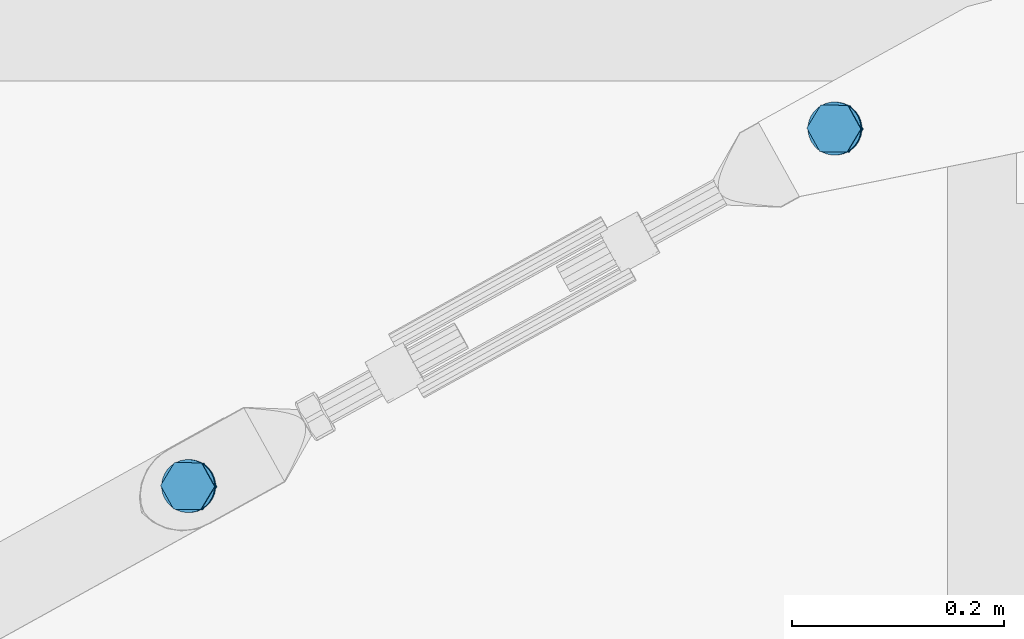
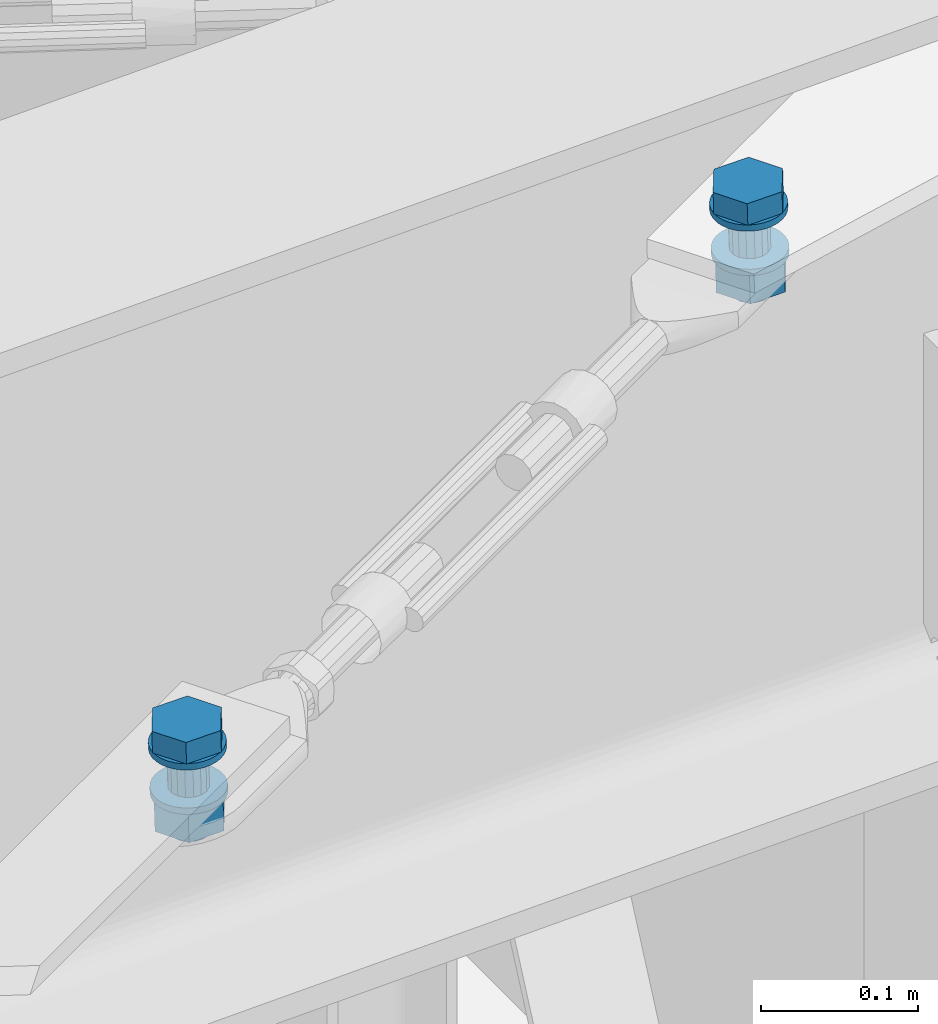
# One storey, part 145 of 476: 2 mechanical fasteners.
"""IFC2X3 building model written with IfcOpenShell, lengths in millimetres."""

from ifc_helpers import new_model, entity, si_unit, converted_unit, origin_with_axes, place, context, project, spatial, faceted_brep, element, save


model = new_model("IFC2X3")

# Units and contexts
model_context = context("Model", 3, precision=1e-09, world=origin_with_axes())
ifc_project = project(units=[si_unit("LENGTHUNIT", "METRE", prefix="MILLI"), si_unit("AREAUNIT", "SQUARE_METRE"), si_unit("VOLUMEUNIT", "CUBIC_METRE"), converted_unit("PLANEANGLEUNIT", "DEGREE", entity("IfcPlaneAngleMeasure", 0.01745329), si_unit("PLANEANGLEUNIT", "RADIAN"), dimensions=[0, 0, 0, 0, 0, 0, 0])], contexts=[model_context])

# Site, building, storey
site_placement = place(None, origin_with_axes())
site = spatial("IfcSite", under=ifc_project, at=site_placement, Name="mKR Teilneubau & Sanierung BA1 - Ostfildern", CompositionType="ELEMENT")
building_placement = place(site_placement, origin_with_axes())
building = spatial("IfcBuilding", under=site, at=building_placement, Name="Struktur 1", CompositionType="ELEMENT")
storey_placement = place(building_placement, origin_with_axes())
storey = spatial("IfcBuildingStorey", under=building, at=storey_placement, Name="Default Storey", CompositionType="ELEMENT", Elevation=0.0)

# Mechanical fasteners
mechanical_fastener_1_placement = place(None, origin_with_axes())
element("IfcMechanicalFastener", 1, at=mechanical_fastener_1_placement, inside=storey, ObjectType="-", NominalDiameter=27.0, NominalLength=70.0, context=model_context, shape_type="Brep", body=[
    faceted_brep([(21098.088223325, -10244.753447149, 5618.092674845), (21097.938013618, -10244.753447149, 5623.09041804), (21099.878317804, -10249.253471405, 5623.148734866), (21100.028527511, -10249.253471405, 5618.150991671), (21100.903824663, -10254.045734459, 5623.179556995), (21101.054034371, -10254.045734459, 5618.1818138), (21100.975124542, -10258.946072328, 5623.181699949), (21101.125334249, -10258.946072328, 5618.183956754), (21100.089477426, -10263.766167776, 5623.155081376), (21100.239687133, -10263.766167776, 5618.157338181), (21098.280918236, -10268.320787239, 5623.100724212), (21098.431127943, -10268.320787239, 5618.102981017), (21095.618948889, -10272.434899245, 5623.020717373), (21095.769158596, -10272.434899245, 5618.022974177), (21092.205867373, -10275.950400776, 5622.918135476), (21092.35607708, -10275.950400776, 5617.920392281), (21088.172836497, -10278.732193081, 5622.796920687), (21088.323046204, -10278.732193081, 5617.799177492), (21083.674843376, -10280.67337344, 5622.661731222), (21083.825053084, -10280.67337344, 5617.663988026), (21078.884743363, -10281.699343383, 5622.517762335), (21079.034953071, -10281.699343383, 5617.52001914), (21073.986617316, -10281.770675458, 5622.370546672), (21074.136827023, -10281.770675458, 5617.372803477), (21069.16869747, -10280.884628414, 5622.225741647), (21069.318907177, -10280.884628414, 5617.227998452), (21064.616133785, -10279.075252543, 5622.088912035), (21064.766343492, -10279.075252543, 5617.09116884), (21060.503878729, -10276.412081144, 5621.965316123), (21060.654088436, -10276.412081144, 5616.967572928), (21056.989963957, -10272.997458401, 5621.859703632), (21057.140173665, -10272.997458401, 5616.861960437), (21054.209427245, -10268.96260635, 5621.77613319), (21054.359636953, -10268.96260635, 5616.778389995), (21052.269123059, -10264.462582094, 5621.717816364), (21052.419332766, -10264.462582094, 5616.720073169), (21051.243616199, -10259.67031904, 5621.686994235), (21051.393825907, -10259.67031904, 5616.68925104), (21051.172316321, -10254.769981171, 5621.684851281), (21051.322526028, -10254.769981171, 5616.687108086), (21052.057963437, -10249.949885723, 5621.711469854), (21052.208173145, -10249.949885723, 5616.713726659), (21053.866522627, -10245.39526626, 5621.765827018), (21054.016732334, -10245.39526626, 5616.768083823), (21056.528491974, -10241.281154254, 5621.845833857), (21056.678701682, -10241.281154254, 5616.848090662), (21059.94157349, -10237.765652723, 5621.948415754), (21060.091783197, -10237.765652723, 5616.950672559), (21063.974604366, -10234.983860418, 5622.069630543), (21064.124814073, -10234.983860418, 5617.071887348), (21068.472597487, -10233.042680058, 5622.204820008), (21068.622807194, -10233.042680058, 5617.207076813), (21073.2626975, -10232.016710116, 5622.348788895), (21073.412907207, -10232.016710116, 5617.351045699), (21078.160823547, -10231.945378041, 5622.496004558), (21078.311033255, -10231.945378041, 5617.498261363), (21082.978743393, -10232.831425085, 5622.640809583), (21083.1289531, -10232.831425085, 5617.643066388), (21087.531307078, -10234.640800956, 5622.777639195), (21087.681516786, -10234.640800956, 5617.779896), (21091.643562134, -10237.303972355, 5622.901235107), (21091.793771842, -10237.303972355, 5617.903491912), (21095.157476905, -10240.718595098, 5623.006847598), (21095.307686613, -10240.718595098, 5618.009104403)], [[[0, 1, 2, 3]], [[3, 2, 4, 5]], [[5, 4, 6, 7]], [[7, 6, 8, 9]], [[9, 8, 10, 11]], [[11, 10, 12, 13]], [[13, 12, 14, 15]], [[15, 14, 16, 17]], [[17, 16, 18, 19]], [[19, 18, 20, 21]], [[21, 20, 22, 23]], [[23, 22, 24, 25]], [[25, 24, 26, 27]], [[27, 26, 28, 29]], [[29, 28, 30, 31]], [[31, 30, 32, 33]], [[33, 32, 34, 35]], [[35, 34, 36, 37]], [[37, 36, 38, 39]], [[39, 38, 40, 41]], [[41, 40, 42, 43]], [[43, 42, 44, 45]], [[45, 44, 46, 47]], [[47, 46, 48, 49]], [[49, 48, 50, 51]], [[51, 50, 52, 53]], [[53, 52, 54, 55]], [[55, 54, 56, 57]], [[57, 56, 58, 59]], [[59, 58, 60, 61]], [[61, 60, 62, 63]], [[63, 62, 1, 0]], [[2, 1, 62, 60, 58, 56, 54, 52, 50, 48, 46, 44, 42, 40, 38, 36, 34, 32, 30, 28, 26, 24, 22, 20, 18, 16, 14, 12, 10, 8, 6, 4]], [[63, 0, 3, 5, 7, 9, 11, 13, 15, 17, 19, 21, 23, 25, 27, 29, 31, 33, 35, 37, 39, 41, 43, 45, 47, 49, 51, 53, 55, 57, 59, 61]]]),
    faceted_brep([(21062.458479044, -10278.642122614, 5639.031739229), (21062.969192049, -10278.642122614, 5622.039412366), (21088.37852147, -10279.104053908, 5622.803102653), (21087.867808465, -10279.104053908, 5639.795429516), (21101.483049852, -10257.319958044, 5623.196965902), (21100.972336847, -10257.319958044, 5640.189292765), (21089.178248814, -10235.073930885, 5622.827138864), (21088.667535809, -10235.073930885, 5639.819465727), (21063.768919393, -10234.61199959, 5622.063448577), (21063.258206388, -10234.61199959, 5639.05577544), (21050.66439101, -10256.396095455, 5621.669585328), (21050.153678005, -10256.396095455, 5638.661912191)], [[[0, 1, 2, 3]], [[3, 2, 4, 5]], [[5, 4, 6, 7]], [[7, 6, 8, 9]], [[9, 8, 10, 11]], [[11, 10, 1, 0]], [[3, 5, 7, 9, 11, 0]], [[2, 1, 10, 8, 6, 4]]]),
    faceted_brep([(21088.931906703, -10250.321553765, 5587.803930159), (21088.030657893, -10250.321553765, 5617.790075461), (21089.632195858, -10255.339388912, 5617.838210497), (21090.533444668, -10255.339388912, 5587.852065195), (21089.192448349, -10260.588422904, 5617.824993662), (21090.09369716, -10260.588422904, 5587.83884836), (21086.778362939, -10265.269537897, 5617.752437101), (21087.67961175, -10265.269537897, 5587.766291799), (21082.757462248, -10268.670076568, 5617.63158689), (21083.658711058, -10268.670076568, 5587.645441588), (21077.741891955, -10270.272337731, 5617.480841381), (21078.643140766, -10270.272337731, 5587.494696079), (21072.495227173, -10269.832391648, 5617.323150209), (21073.396475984, -10269.832391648, 5587.337004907), (21067.816225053, -10267.417216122, 5617.182520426), (21068.717473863, -10267.417216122, 5587.196375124), (21064.417221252, -10263.394499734, 5617.080361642), (21065.318470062, -10263.394499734, 5587.09421634), (21062.815683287, -10258.376664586, 5617.032226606), (21063.716932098, -10258.376664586, 5587.046081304), (21063.255430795, -10253.127630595, 5617.045443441), (21064.156679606, -10253.127630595, 5587.059298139), (21065.669516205, -10248.446515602, 5617.118000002), (21066.570765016, -10248.446515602, 5587.1318547), (21069.690416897, -10245.04597693, 5617.238850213), (21070.591665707, -10245.04597693, 5587.252704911), (21074.705987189, -10243.443715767, 5617.389595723), (21075.607236, -10243.443715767, 5587.40345042), (21079.952651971, -10243.88366185, 5617.547286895), (21080.853900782, -10243.88366185, 5587.561141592), (21084.631654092, -10246.298837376, 5617.687916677), (21085.532902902, -10246.298837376, 5587.701771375)], [[[0, 1, 2, 3]], [[3, 2, 4, 5]], [[5, 4, 6, 7]], [[7, 6, 8, 9]], [[9, 8, 10, 11]], [[11, 10, 12, 13]], [[13, 12, 14, 15]], [[15, 14, 16, 17]], [[17, 16, 18, 19]], [[19, 18, 20, 21]], [[21, 20, 22, 23]], [[23, 22, 24, 25]], [[25, 24, 26, 27]], [[27, 26, 28, 29]], [[29, 28, 30, 31]], [[31, 30, 1, 0]], [[2, 1, 30, 28, 26, 24, 22, 20, 18, 16, 14, 12, 10, 8, 6, 4]], [[31, 0, 3, 5, 7, 9, 11, 13, 15, 17, 19, 21, 23, 25, 27, 29]]]),
    faceted_brep([(21099.139691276, -10244.753447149, 5583.108472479), (21098.989481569, -10244.753447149, 5588.106215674), (21100.929785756, -10249.253471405, 5588.164532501), (21101.079995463, -10249.253471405, 5583.166789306), (21101.955292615, -10254.045734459, 5588.19535463), (21102.105502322, -10254.045734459, 5583.197611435), (21102.026592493, -10258.946072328, 5588.197497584), (21102.176802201, -10258.946072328, 5583.199754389), (21101.140945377, -10263.766167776, 5588.17087901), (21101.291155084, -10263.766167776, 5583.173135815), (21099.332386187, -10268.320787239, 5588.116521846), (21099.482595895, -10268.320787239, 5583.118778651), (21096.67041684, -10272.434899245, 5588.036515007), (21096.820626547, -10272.434899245, 5583.038771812), (21093.257335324, -10275.950400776, 5587.933933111), (21093.407545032, -10275.950400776, 5582.936189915), (21089.224304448, -10278.732193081, 5587.812718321), (21089.374514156, -10278.732193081, 5582.814975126), (21084.726311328, -10280.67337344, 5587.677528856), (21084.876521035, -10280.67337344, 5582.679785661), (21079.936211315, -10281.699343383, 5587.53355997), (21080.086421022, -10281.699343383, 5582.535816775), (21075.038085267, -10281.770675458, 5587.386344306), (21075.188294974, -10281.770675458, 5582.388601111), (21070.220165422, -10280.884628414, 5587.241539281), (21070.370375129, -10280.884628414, 5582.243796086), (21065.667601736, -10279.075252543, 5587.10470967), (21065.817811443, -10279.075252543, 5582.106966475), (21061.55534668, -10276.412081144, 5586.981113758), (21061.705556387, -10276.412081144, 5581.983370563), (21058.041431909, -10272.997458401, 5586.875501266), (21058.191641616, -10272.997458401, 5581.877758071), (21055.260895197, -10268.96260635, 5586.791930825), (21055.411104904, -10268.96260635, 5581.79418763), (21053.32059101, -10264.462582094, 5586.733613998), (21053.470800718, -10264.462582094, 5581.735870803), (21052.295084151, -10259.67031904, 5586.702791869), (21052.445293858, -10259.67031904, 5581.705048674), (21052.223784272, -10254.769981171, 5586.700648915), (21052.37399398, -10254.769981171, 5581.70290572), (21053.109431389, -10249.949885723, 5586.727267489), (21053.259641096, -10249.949885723, 5581.729524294), (21054.917990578, -10245.39526626, 5586.781624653), (21055.068200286, -10245.39526626, 5581.783881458), (21057.579959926, -10241.281154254, 5586.861631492), (21057.730169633, -10241.281154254, 5581.863888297), (21060.993041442, -10237.765652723, 5586.964213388), (21061.143251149, -10237.765652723, 5581.966470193), (21065.026072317, -10234.983860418, 5587.085428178), (21065.176282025, -10234.983860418, 5582.087684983), (21069.524065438, -10233.042680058, 5587.220617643), (21069.674275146, -10233.042680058, 5582.222874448), (21074.314165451, -10232.016710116, 5587.364586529), (21074.464375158, -10232.016710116, 5582.366843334), (21079.212291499, -10231.945378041, 5587.511802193), (21079.362501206, -10231.945378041, 5582.514058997), (21084.030211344, -10232.831425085, 5587.656607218), (21084.180421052, -10232.831425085, 5582.658864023), (21088.58277503, -10234.640800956, 5587.793436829), (21088.732984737, -10234.640800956, 5582.795693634), (21092.695030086, -10237.303972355, 5587.917032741), (21092.845239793, -10237.303972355, 5582.919289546), (21096.208944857, -10240.718595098, 5588.022645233), (21096.359154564, -10240.718595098, 5583.024902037)], [[[0, 1, 2, 3]], [[3, 2, 4, 5]], [[5, 4, 6, 7]], [[7, 6, 8, 9]], [[9, 8, 10, 11]], [[11, 10, 12, 13]], [[13, 12, 14, 15]], [[15, 14, 16, 17]], [[17, 16, 18, 19]], [[19, 18, 20, 21]], [[21, 20, 22, 23]], [[23, 22, 24, 25]], [[25, 24, 26, 27]], [[27, 26, 28, 29]], [[29, 28, 30, 31]], [[31, 30, 32, 33]], [[33, 32, 34, 35]], [[35, 34, 36, 37]], [[37, 36, 38, 39]], [[39, 38, 40, 41]], [[41, 40, 42, 43]], [[43, 42, 44, 45]], [[45, 44, 46, 47]], [[47, 46, 48, 49]], [[49, 48, 50, 51]], [[51, 50, 52, 53]], [[53, 52, 54, 55]], [[55, 54, 56, 57]], [[57, 56, 58, 59]], [[59, 58, 60, 61]], [[61, 60, 62, 63]], [[63, 62, 1, 0]], [[2, 1, 62, 60, 58, 56, 54, 52, 50, 48, 46, 44, 42, 40, 38, 36, 34, 32, 30, 28, 26, 24, 22, 20, 18, 16, 14, 12, 10, 8, 6, 4]], [[63, 0, 3, 5, 7, 9, 11, 13, 15, 17, 19, 21, 23, 25, 27, 29, 31, 33, 35, 37, 39, 41, 43, 45, 47, 49, 51, 53, 55, 57, 59, 61]]]),
    faceted_brep([(21064.132213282, -10278.706382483, 5582.056304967), (21064.793135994, -10278.706382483, 5560.066234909), (21090.277419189, -10279.169676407, 5560.832177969), (21089.616496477, -10279.169676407, 5582.822248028), (21103.420603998, -10257.321320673, 5561.227203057), (21102.759681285, -10257.321320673, 5583.217273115), (21091.079505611, -10235.009671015, 5560.856285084), (21090.418582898, -10235.009671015, 5582.846355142), (21065.595222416, -10234.546377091, 5560.090342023), (21064.934299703, -10234.546377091, 5582.080412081), (21052.452037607, -10256.394732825, 5559.695316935), (21051.791114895, -10256.394732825, 5581.685386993)], [[[0, 1, 2, 3]], [[3, 2, 4, 5]], [[5, 4, 6, 7]], [[7, 6, 8, 9]], [[9, 8, 10, 11]], [[11, 10, 1, 0]], [[3, 5, 7, 9, 11, 0]], [[2, 1, 10, 8, 6, 4]]]),
    faceted_brep([(21089.983374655, -10250.321553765, 5552.819727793), (21089.74302969, -10250.321553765, 5560.816430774), (21091.344567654, -10255.339388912, 5560.86456581), (21091.58491262, -10255.339388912, 5552.867862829), (21090.904820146, -10260.588422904, 5560.851348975), (21091.145165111, -10260.588422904, 5552.854645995), (21088.490734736, -10265.269537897, 5560.778792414), (21088.731079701, -10265.269537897, 5552.782089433), (21084.469834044, -10268.670076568, 5560.657942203), (21084.71017901, -10268.670076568, 5552.661239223), (21079.454263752, -10270.272337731, 5560.507196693), (21079.694608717, -10270.272337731, 5552.510493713), (21074.20759897, -10269.832391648, 5560.349505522), (21074.447943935, -10269.832391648, 5552.352802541), (21069.52859685, -10267.417216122, 5560.208875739), (21069.768941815, -10267.417216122, 5552.212172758), (21066.129593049, -10263.394499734, 5560.106716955), (21066.369938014, -10263.394499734, 5552.110013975), (21064.528055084, -10258.376664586, 5560.058581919), (21064.768400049, -10258.376664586, 5552.061878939), (21064.967802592, -10253.127630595, 5560.071798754), (21065.208147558, -10253.127630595, 5552.075095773), (21067.381888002, -10248.446515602, 5560.144355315), (21067.622232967, -10248.446515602, 5552.147652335), (21071.402788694, -10245.04597693, 5560.265205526), (21071.643133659, -10245.04597693, 5552.268502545), (21076.418358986, -10243.443715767, 5560.415951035), (21076.658703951, -10243.443715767, 5552.419248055), (21081.665023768, -10243.88366185, 5560.573642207), (21081.905368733, -10243.88366185, 5552.576939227), (21086.344025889, -10246.298837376, 5560.71427199), (21086.584370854, -10246.298837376, 5552.71756901)], [[[0, 1, 2, 3]], [[3, 2, 4, 5]], [[5, 4, 6, 7]], [[7, 6, 8, 9]], [[9, 8, 10, 11]], [[11, 10, 12, 13]], [[13, 12, 14, 15]], [[15, 14, 16, 17]], [[17, 16, 18, 19]], [[19, 18, 20, 21]], [[21, 20, 22, 23]], [[23, 22, 24, 25]], [[25, 24, 26, 27]], [[27, 26, 28, 29]], [[29, 28, 30, 31]], [[31, 30, 1, 0]], [[2, 1, 30, 28, 26, 24, 22, 20, 18, 16, 14, 12, 10, 8, 6, 4]], [[31, 0, 3, 5, 7, 9, 11, 13, 15, 17, 19, 21, 23, 25, 27, 29]]]),
])
mechanical_fastener_2_placement = place(None, origin_with_axes())
element("IfcMechanicalFastener", 2, at=mechanical_fastener_2_placement, inside=storey, ObjectType="-", NominalDiameter=27.0, NominalLength=70.0, context=model_context, shape_type="Brep", body=[
    faceted_brep([(21706.37044418, -9908.246134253, 5621.226893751), (21706.220234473, -9908.246134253, 5626.224636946), (21708.160538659, -9912.746158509, 5626.282953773), (21708.310748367, -9912.746158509, 5621.285210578), (21709.186045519, -9917.538421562, 5626.313775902), (21709.336255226, -9917.538421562, 5621.316032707), (21709.257345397, -9922.438759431, 5626.315918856), (21709.407555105, -9922.438759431, 5621.318175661), (21708.371698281, -9927.25885488, 5626.289300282), (21708.521907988, -9927.25885488, 5621.291557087), (21706.563139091, -9931.813474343, 5626.234943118), (21706.713348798, -9931.813474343, 5621.237199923), (21703.901169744, -9935.927586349, 5626.154936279), (21704.051379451, -9935.927586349, 5621.157193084), (21700.488088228, -9939.44308788, 5626.052354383), (21700.638297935, -9939.44308788, 5621.054611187), (21696.455057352, -9942.224880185, 5625.931139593), (21696.60526706, -9942.224880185, 5620.933396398), (21691.957064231, -9944.166060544, 5625.795950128), (21692.107273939, -9944.166060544, 5620.798206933), (21687.166964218, -9945.192030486, 5625.651981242), (21687.317173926, -9945.192030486, 5620.654238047), (21682.268838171, -9945.263362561, 5625.504765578), (21682.419047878, -9945.263362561, 5620.507022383), (21677.450918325, -9944.377315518, 5625.359960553), (21677.601128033, -9944.377315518, 5620.362217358), (21672.89835464, -9942.567939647, 5625.223130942), (21673.048564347, -9942.567939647, 5620.225387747), (21668.786099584, -9939.904768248, 5625.09953503), (21668.936309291, -9939.904768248, 5620.101791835), (21665.272184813, -9936.490145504, 5624.993922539), (21665.42239452, -9936.490145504, 5619.996179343), (21662.491648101, -9932.455293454, 5624.910352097), (21662.641857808, -9932.455293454, 5619.912608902), (21660.551343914, -9927.955269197, 5624.85203527), (21660.701553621, -9927.955269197, 5619.854292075), (21659.525837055, -9923.163006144, 5624.821213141), (21659.676046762, -9923.163006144, 5619.823469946), (21659.454537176, -9918.262668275, 5624.819070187), (21659.604746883, -9918.262668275, 5619.821326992), (21660.340184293, -9913.442572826, 5624.845688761), (21660.490394, -9913.442572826, 5619.847945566), (21662.148743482, -9908.887953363, 5624.900045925), (21662.298953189, -9908.887953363, 5619.90230273), (21664.810712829, -9904.773841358, 5624.980052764), (21664.960922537, -9904.773841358, 5619.982309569), (21668.223794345, -9901.258339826, 5625.082634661), (21668.374004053, -9901.258339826, 5620.084891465), (21672.256825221, -9898.476547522, 5625.20384945), (21672.407034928, -9898.476547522, 5620.206106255), (21676.754818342, -9896.535367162, 5625.339038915), (21676.905028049, -9896.535367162, 5620.34129572), (21681.544918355, -9895.50939722, 5625.483007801), (21681.695128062, -9895.50939722, 5620.485264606), (21686.443044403, -9895.438065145, 5625.630223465), (21686.59325411, -9895.438065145, 5620.63248027), (21691.260964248, -9896.324112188, 5625.77502849), (21691.411173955, -9896.324112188, 5620.777285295), (21695.813527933, -9898.13348806, 5625.911858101), (21695.963737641, -9898.13348806, 5620.914114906), (21699.925782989, -9900.796659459, 5626.035454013), (21700.075992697, -9900.796659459, 5621.037710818), (21703.439697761, -9904.211282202, 5626.141066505), (21703.589907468, -9904.211282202, 5621.143323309)], [[[0, 1, 2, 3]], [[3, 2, 4, 5]], [[5, 4, 6, 7]], [[7, 6, 8, 9]], [[9, 8, 10, 11]], [[11, 10, 12, 13]], [[13, 12, 14, 15]], [[15, 14, 16, 17]], [[17, 16, 18, 19]], [[19, 18, 20, 21]], [[21, 20, 22, 23]], [[23, 22, 24, 25]], [[25, 24, 26, 27]], [[27, 26, 28, 29]], [[29, 28, 30, 31]], [[31, 30, 32, 33]], [[33, 32, 34, 35]], [[35, 34, 36, 37]], [[37, 36, 38, 39]], [[39, 38, 40, 41]], [[41, 40, 42, 43]], [[43, 42, 44, 45]], [[45, 44, 46, 47]], [[47, 46, 48, 49]], [[49, 48, 50, 51]], [[51, 50, 52, 53]], [[53, 52, 54, 55]], [[55, 54, 56, 57]], [[57, 56, 58, 59]], [[59, 58, 60, 61]], [[61, 60, 62, 63]], [[63, 62, 1, 0]], [[2, 1, 62, 60, 58, 56, 54, 52, 50, 48, 46, 44, 42, 40, 38, 36, 34, 32, 30, 28, 26, 24, 22, 20, 18, 16, 14, 12, 10, 8, 6, 4]], [[63, 0, 3, 5, 7, 9, 11, 13, 15, 17, 19, 21, 23, 25, 27, 29, 31, 33, 35, 37, 39, 41, 43, 45, 47, 49, 51, 53, 55, 57, 59, 61]]]),
    faceted_brep([(21670.740699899, -9942.134809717, 5642.165958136), (21671.251412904, -9942.134809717, 5625.173631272), (21696.660742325, -9942.596741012, 5625.93732156), (21696.15002932, -9942.596741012, 5642.929648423), (21709.765270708, -9920.812645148, 5626.331184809), (21709.254557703, -9920.812645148, 5643.323511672), (21697.460469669, -9898.566617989, 5625.961357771), (21696.949756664, -9898.566617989, 5642.953684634), (21672.051140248, -9898.104686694, 5625.197667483), (21671.540427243, -9898.104686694, 5642.189994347), (21658.946611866, -9919.888782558, 5624.803804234), (21658.435898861, -9919.888782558, 5641.796131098)], [[[0, 1, 2, 3]], [[3, 2, 4, 5]], [[5, 4, 6, 7]], [[7, 6, 8, 9]], [[9, 8, 10, 11]], [[11, 10, 1, 0]], [[3, 5, 7, 9, 11, 0]], [[2, 1, 10, 8, 6, 4]]]),
    faceted_brep([(21697.214160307, -9913.814240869, 5590.937059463), (21696.312869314, -9913.814240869, 5620.924608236), (21697.914407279, -9918.832076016, 5620.972743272), (21698.815698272, -9918.832076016, 5590.9851945), (21697.474659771, -9924.081110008, 5620.959526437), (21698.375950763, -9924.081110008, 5590.971977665), (21695.060574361, -9928.762225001, 5620.886969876), (21695.961865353, -9928.762225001, 5590.899421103), (21691.039673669, -9932.162763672, 5620.766119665), (21691.940964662, -9932.162763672, 5590.778570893), (21686.024103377, -9933.765024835, 5620.615374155), (21686.92539437, -9933.765024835, 5590.627825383), (21680.777438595, -9933.325078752, 5620.457682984), (21681.678729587, -9933.325078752, 5590.470134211), (21676.098436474, -9930.909903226, 5620.317053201), (21676.999727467, -9930.909903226, 5590.329504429), (21672.699432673, -9926.887186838, 5620.214894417), (21673.600723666, -9926.887186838, 5590.227345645), (21671.097894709, -9921.86935169, 5620.166759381), (21671.999185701, -9921.86935169, 5590.179210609), (21671.537642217, -9916.620317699, 5620.179976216), (21672.43893321, -9916.620317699, 5590.192427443), (21673.951727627, -9911.939202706, 5620.252532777), (21674.85301862, -9911.939202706, 5590.264984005), (21677.972628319, -9908.538664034, 5620.373382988), (21678.873919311, -9908.538664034, 5590.385834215), (21682.988198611, -9906.936402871, 5620.524128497), (21683.889489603, -9906.936402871, 5590.536579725), (21688.234863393, -9907.376348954, 5620.681819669), (21689.136154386, -9907.376348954, 5590.694270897), (21692.913865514, -9909.79152448, 5620.822449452), (21693.815156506, -9909.79152448, 5590.83490068)], [[[0, 1, 2, 3]], [[3, 2, 4, 5]], [[5, 4, 6, 7]], [[7, 6, 8, 9]], [[9, 8, 10, 11]], [[11, 10, 12, 13]], [[13, 12, 14, 15]], [[15, 14, 16, 17]], [[17, 16, 18, 19]], [[19, 18, 20, 21]], [[21, 20, 22, 23]], [[23, 22, 24, 25]], [[25, 24, 26, 27]], [[27, 26, 28, 29]], [[29, 28, 30, 31]], [[31, 30, 1, 0]], [[2, 1, 30, 28, 26, 24, 22, 20, 18, 16, 14, 12, 10, 8, 6, 4]], [[31, 0, 3, 5, 7, 9, 11, 13, 15, 17, 19, 21, 23, 25, 27, 29]]]),
    faceted_brep([(21707.42194488, -9908.246134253, 5586.241601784), (21707.271735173, -9908.246134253, 5591.239344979), (21709.212039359, -9912.746158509, 5591.297661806), (21709.362249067, -9912.746158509, 5586.29991861), (21710.237546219, -9917.538421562, 5591.328483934), (21710.387755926, -9917.538421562, 5586.330740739), (21710.308846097, -9922.438759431, 5591.330626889), (21710.459055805, -9922.438759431, 5586.332883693), (21709.423198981, -9927.25885488, 5591.304008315), (21709.573408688, -9927.25885488, 5586.30626512), (21707.614639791, -9931.813474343, 5591.249651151), (21707.764849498, -9931.813474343, 5586.251907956), (21704.952670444, -9935.927586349, 5591.169644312), (21705.102880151, -9935.927586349, 5586.171901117), (21701.539588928, -9939.44308788, 5591.067062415), (21701.689798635, -9939.44308788, 5586.06931922), (21697.506558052, -9942.224880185, 5590.945847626), (21697.65676776, -9942.224880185, 5585.948104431), (21693.008564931, -9944.166060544, 5590.810658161), (21693.158774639, -9944.166060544, 5585.812914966), (21688.218464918, -9945.192030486, 5590.666689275), (21688.368674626, -9945.192030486, 5585.66894608), (21683.320338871, -9945.263362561, 5590.519473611), (21683.470548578, -9945.263362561, 5585.521730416), (21678.502419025, -9944.377315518, 5590.374668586), (21678.652628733, -9944.377315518, 5585.376925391), (21673.94985534, -9942.567939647, 5590.237838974), (21674.100065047, -9942.567939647, 5585.240095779), (21669.837600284, -9939.904768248, 5590.114243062), (21669.987809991, -9939.904768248, 5585.116499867), (21666.323685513, -9936.490145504, 5590.008630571), (21666.47389522, -9936.490145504, 5585.010887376), (21663.5431488, -9932.455293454, 5589.92506013), (21663.693358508, -9932.455293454, 5584.927316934), (21661.602844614, -9927.955269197, 5589.866743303), (21661.753054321, -9927.955269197, 5584.869000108), (21660.577337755, -9923.163006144, 5589.835921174), (21660.727547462, -9923.163006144, 5584.838177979), (21660.506037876, -9918.262668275, 5589.83377822), (21660.656247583, -9918.262668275, 5584.836035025), (21661.391684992, -9913.442572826, 5589.860396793), (21661.5418947, -9913.442572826, 5584.862653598), (21663.200244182, -9908.887953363, 5589.914753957), (21663.350453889, -9908.887953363, 5584.917010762), (21665.862213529, -9904.773841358, 5589.994760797), (21666.012423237, -9904.773841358, 5584.997017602), (21669.275295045, -9901.258339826, 5590.097342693), (21669.425504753, -9901.258339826, 5585.099599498), (21673.308325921, -9898.476547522, 5590.218557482), (21673.458535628, -9898.476547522, 5585.220814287), (21677.806319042, -9896.535367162, 5590.353746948), (21677.956528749, -9896.535367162, 5585.356003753), (21682.596419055, -9895.50939722, 5590.497715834), (21682.746628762, -9895.50939722, 5585.499972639), (21687.494545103, -9895.438065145, 5590.644931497), (21687.64475481, -9895.438065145, 5585.647188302), (21692.312464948, -9896.324112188, 5590.789736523), (21692.462674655, -9896.324112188, 5585.791993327), (21696.865028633, -9898.13348806, 5590.926566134), (21697.015238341, -9898.13348806, 5585.928822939), (21700.977283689, -9900.796659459, 5591.050162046), (21701.127493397, -9900.796659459, 5586.052418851), (21704.491198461, -9904.211282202, 5591.155774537), (21704.641408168, -9904.211282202, 5586.158031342)], [[[0, 1, 2, 3]], [[3, 2, 4, 5]], [[5, 4, 6, 7]], [[7, 6, 8, 9]], [[9, 8, 10, 11]], [[11, 10, 12, 13]], [[13, 12, 14, 15]], [[15, 14, 16, 17]], [[17, 16, 18, 19]], [[19, 18, 20, 21]], [[21, 20, 22, 23]], [[23, 22, 24, 25]], [[25, 24, 26, 27]], [[27, 26, 28, 29]], [[29, 28, 30, 31]], [[31, 30, 32, 33]], [[33, 32, 34, 35]], [[35, 34, 36, 37]], [[37, 36, 38, 39]], [[39, 38, 40, 41]], [[41, 40, 42, 43]], [[43, 42, 44, 45]], [[45, 44, 46, 47]], [[47, 46, 48, 49]], [[49, 48, 50, 51]], [[51, 50, 52, 53]], [[53, 52, 54, 55]], [[55, 54, 56, 57]], [[57, 56, 58, 59]], [[59, 58, 60, 61]], [[61, 60, 62, 63]], [[63, 62, 1, 0]], [[2, 1, 62, 60, 58, 56, 54, 52, 50, 48, 46, 44, 42, 40, 38, 36, 34, 32, 30, 28, 26, 24, 22, 20, 18, 16, 14, 12, 10, 8, 6, 4]], [[63, 0, 3, 5, 7, 9, 11, 13, 15, 17, 19, 21, 23, 25, 27, 29, 31, 33, 35, 37, 39, 41, 43, 45, 47, 49, 51, 53, 55, 57, 59, 61]]]),
    faceted_brep([(21672.414466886, -9942.199069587, 5585.189434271), (21673.075389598, -9942.199069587, 5563.199364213), (21698.559672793, -9942.662363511, 5563.965307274), (21697.898750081, -9942.662363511, 5585.955377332), (21711.702857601, -9920.814007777, 5564.360332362), (21711.041934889, -9920.814007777, 5586.35040242), (21699.361759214, -9898.502358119, 5563.989414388), (21698.700836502, -9898.502358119, 5585.979484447), (21673.877476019, -9898.039064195, 5563.223471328), (21673.216553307, -9898.039064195, 5585.213541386), (21660.734291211, -9919.887419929, 5562.82844624), (21660.073368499, -9919.887419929, 5584.818516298)], [[[0, 1, 2, 3]], [[3, 2, 4, 5]], [[5, 4, 6, 7]], [[7, 6, 8, 9]], [[9, 8, 10, 11]], [[11, 10, 1, 0]], [[3, 5, 7, 9, 11, 0]], [[2, 1, 10, 8, 6, 4]]]),
    faceted_brep([(21698.26559551, -9913.814240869, 5555.9539467), (21698.025292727, -9913.814240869, 5563.94924621), (21699.626830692, -9918.832076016, 5563.997381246), (21699.867133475, -9918.832076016, 5556.002081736), (21699.187083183, -9924.081110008, 5563.984164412), (21699.427385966, -9924.081110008, 5555.988864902), (21696.772997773, -9928.762225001, 5563.91160785), (21697.013300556, -9928.762225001, 5555.91630834), (21692.752097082, -9932.162763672, 5563.79075764), (21692.992399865, -9932.162763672, 5555.795458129), (21687.736526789, -9933.765024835, 5563.64001213), (21687.976829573, -9933.765024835, 5555.64471262), (21682.489862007, -9933.325078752, 5563.482320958), (21682.73016479, -9933.325078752, 5555.487021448), (21677.810859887, -9930.909903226, 5563.341691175), (21678.05116267, -9930.909903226, 5555.346391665), (21674.411856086, -9926.887186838, 5563.239532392), (21674.652158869, -9926.887186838, 5555.244232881), (21672.810318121, -9921.86935169, 5563.191397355), (21673.050620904, -9921.86935169, 5555.196097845), (21673.250065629, -9916.620317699, 5563.20461419), (21673.490368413, -9916.620317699, 5555.20931468), (21675.664151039, -9911.939202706, 5563.277170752), (21675.904453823, -9911.939202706, 5555.281871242), (21679.685051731, -9908.538664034, 5563.398020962), (21679.925354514, -9908.538664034, 5555.402721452), (21684.700622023, -9906.936402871, 5563.548766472), (21684.940924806, -9906.936402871, 5555.553466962), (21689.947286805, -9907.376348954, 5563.706457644), (21690.187589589, -9907.376348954, 5555.711158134), (21694.626288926, -9909.79152448, 5563.847087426), (21694.866591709, -9909.79152448, 5555.851787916)], [[[0, 1, 2, 3]], [[3, 2, 4, 5]], [[5, 4, 6, 7]], [[7, 6, 8, 9]], [[9, 8, 10, 11]], [[11, 10, 12, 13]], [[13, 12, 14, 15]], [[15, 14, 16, 17]], [[17, 16, 18, 19]], [[19, 18, 20, 21]], [[21, 20, 22, 23]], [[23, 22, 24, 25]], [[25, 24, 26, 27]], [[27, 26, 28, 29]], [[29, 28, 30, 31]], [[31, 30, 1, 0]], [[2, 1, 30, 28, 26, 24, 22, 20, 18, 16, 14, 12, 10, 8, 6, 4]], [[31, 0, 3, 5, 7, 9, 11, 13, 15, 17, 19, 21, 23, 25, 27, 29]]]),
])

save(model, "model.ifc")
